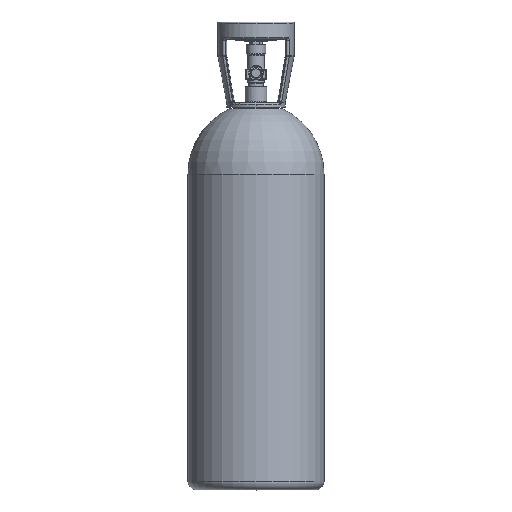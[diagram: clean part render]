
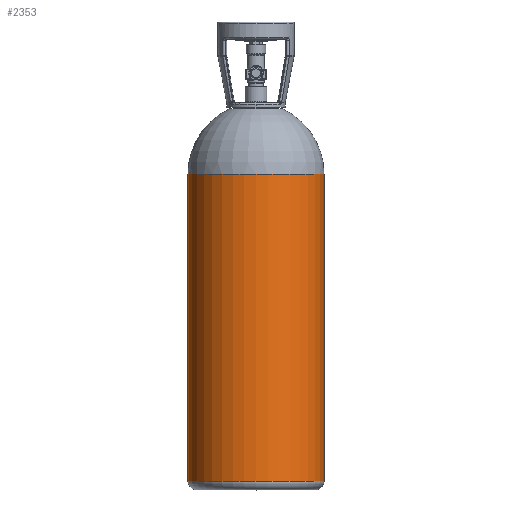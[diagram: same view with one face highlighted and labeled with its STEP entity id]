
A CAD part, top view. The second image highlights one B-rep face of the part: STEP entity #2353.
In plain terms, the highlighted cylindrical face has radius 101.6 mm (diameter 203.2 mm), a partial arc.
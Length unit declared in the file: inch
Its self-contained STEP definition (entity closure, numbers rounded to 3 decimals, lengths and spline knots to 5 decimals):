
#281 = DIRECTION ( 'NONE',  ( -1., 0., 0. ) ) ;
#647 = LINE ( 'NONE', #5115, #9131 ) ;
#1379 = CIRCLE ( 'NONE', #8981, 4. ) ;
#1440 = VERTEX_POINT ( 'NONE', #15178 ) ;
#1774 = VERTEX_POINT ( 'NONE', #14687 ) ;
#2291 = ORIENTED_EDGE ( 'NONE', *, *, #4361, .T. ) ;
#2353 = ADVANCED_FACE ( 'NONE', ( #9133 ), #3227, .T. ) ;
#3158 = DIRECTION ( 'NONE',  ( -1., 0., 0. ) ) ;
#3227 = CYLINDRICAL_SURFACE ( 'NONE', #10728, 4. ) ;
#3669 = CARTESIAN_POINT ( 'NONE',  ( 0., -10.2, 0. ) ) ;
#3743 = DIRECTION ( 'NONE',  ( -1., 0., 0. ) ) ;
#3759 = DIRECTION ( 'NONE',  ( 0., 1., 0. ) ) ;
#3865 = ORIENTED_EDGE ( 'NONE', *, *, #15101, .F. ) ;
#4361 = EDGE_CURVE ( 'NONE', #13838, #1440, #5057, .T. ) ;
#4905 = LINE ( 'NONE', #14254, #12268 ) ;
#5057 = CIRCLE ( 'NONE', #6738, 4. ) ;
#5115 = CARTESIAN_POINT ( 'NONE',  ( -4., 9., 0. ) ) ;
#5952 = EDGE_LOOP ( 'NONE', ( #2291, #10739, #3865, #10127 ) ) ;
#6184 = DIRECTION ( 'NONE',  ( 0., 1., 0. ) ) ;
#6713 = CARTESIAN_POINT ( 'NONE',  ( -4., 7.8637, 0. ) ) ;
#6738 = AXIS2_PLACEMENT_3D ( 'NONE', #3669, #7323, #3743 ) ;
#7323 = DIRECTION ( 'NONE',  ( 0., 1., 0. ) ) ;
#7551 = EDGE_CURVE ( 'NONE', #13838, #9593, #647, .T. ) ;
#8277 = CARTESIAN_POINT ( 'NONE',  ( 0., 7.8637, 0. ) ) ;
#8578 = CARTESIAN_POINT ( 'NONE',  ( -4., -10.2, 0. ) ) ;
#8981 = AXIS2_PLACEMENT_3D ( 'NONE', #8277, #6184, #281 ) ;
#9131 = VECTOR ( 'NONE', #10029, 39.37008 ) ;
#9133 = FACE_OUTER_BOUND ( 'NONE', #5952, .T. ) ;
#9205 = CARTESIAN_POINT ( 'NONE',  ( 0., 9., 0. ) ) ;
#9281 = DIRECTION ( 'NONE',  ( 0., 1., 0. ) ) ;
#9593 = VERTEX_POINT ( 'NONE', #6713 ) ;
#10029 = DIRECTION ( 'NONE',  ( 0., 1., 0. ) ) ;
#10127 = ORIENTED_EDGE ( 'NONE', *, *, #7551, .F. ) ;
#10728 = AXIS2_PLACEMENT_3D ( 'NONE', #9205, #9281, #3158 ) ;
#10739 = ORIENTED_EDGE ( 'NONE', *, *, #12271, .T. ) ;
#12268 = VECTOR ( 'NONE', #3759, 39.37008 ) ;
#12271 = EDGE_CURVE ( 'NONE', #1440, #1774, #4905, .T. ) ;
#13838 = VERTEX_POINT ( 'NONE', #8578 ) ;
#14254 = CARTESIAN_POINT ( 'NONE',  ( 4., 9., 0. ) ) ;
#14687 = CARTESIAN_POINT ( 'NONE',  ( 4., 7.8637, 0. ) ) ;
#15101 = EDGE_CURVE ( 'NONE', #9593, #1774, #1379, .T. ) ;
#15178 = CARTESIAN_POINT ( 'NONE',  ( 4., -10.2, 0. ) ) ;
